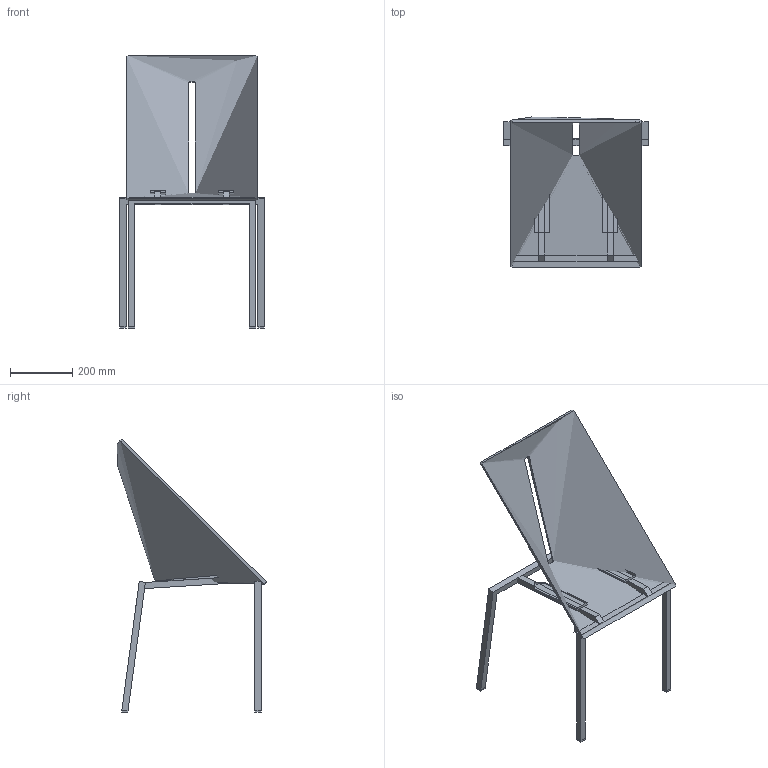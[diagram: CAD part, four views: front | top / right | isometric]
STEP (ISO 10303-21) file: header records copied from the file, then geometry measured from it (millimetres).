
FILE_DESCRIPTION(/* description */ (''),/* implementation_level */ '2;1');
FILE_NAME(/* name */ 'TWIST2~1',/* time_stamp */ '2016-07-06T10:50:48+02:00',/* author */ (''),/* organization */ (''),/* preprocessor_version */ 'ST-DEVELOPER v15',/* originating_system */ '',/* authorisation */ '');
FILE_SCHEMA (('CONFIG_CONTROL_DESIGN'));
Length unit declared in the file: millimetre
Products named in the file (1): Document
Bounding box: 465 x 482.59 x 878.87 mm (x, y, z)
Volume: 3148314 mm3; surface area: 1017385.2 mm2
Topology: 1 solids, 8 shells, 80 faces, 219 edges, 144 vertices
Faces by surface type: plane 51, bspline 29
Entity records: 5071 total; most frequent: CARTESIAN_POINT 3612, ORIENTED_EDGE 390, EDGE_CURVE 216, B_SPLINE_CURVE_WITH_KNOTS 186, VERTEX_POINT 140, EDGE_LOOP 82, ADVANCED_FACE 80, FACE_OUTER_BOUND 80
